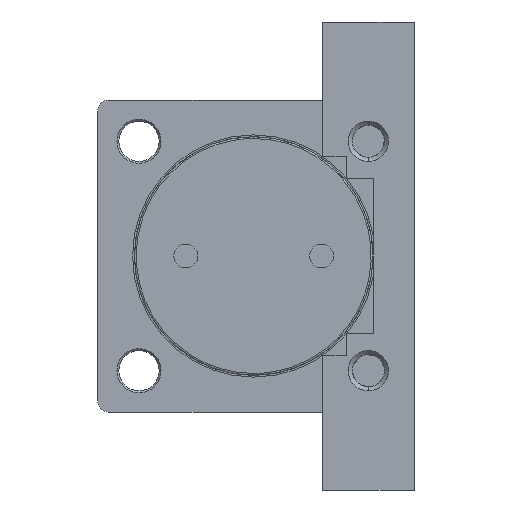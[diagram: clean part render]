
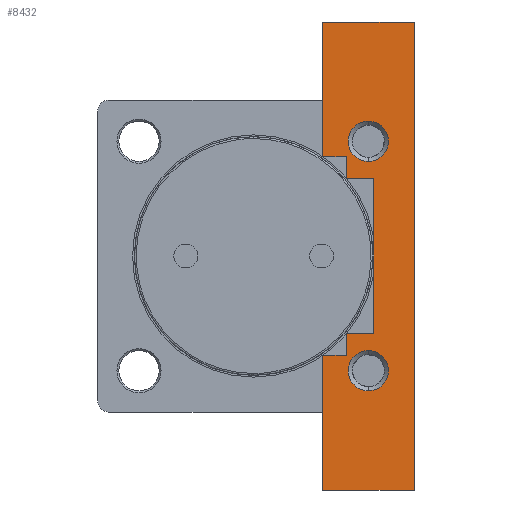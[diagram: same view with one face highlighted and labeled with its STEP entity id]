
A CAD part, left-side view. The second image highlights one B-rep face of the part: STEP entity #8432.
In plain terms, the highlighted planar face has unit normal (1, 0, 0).
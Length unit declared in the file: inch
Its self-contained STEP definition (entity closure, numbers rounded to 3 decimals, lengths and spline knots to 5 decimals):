
#24 = VERTEX_POINT ( 'NONE', #1158 ) ;
#71 = EDGE_CURVE ( 'NONE', #14570, #3117, #13390, .T. ) ;
#828 = CARTESIAN_POINT ( 'NONE',  ( -3.01181, -2.57874, -1.65354 ) ) ;
#886 = EDGE_CURVE ( 'NONE', #13712, #11478, #6671, .T. ) ;
#914 = VERTEX_POINT ( 'NONE', #10642 ) ;
#1158 = CARTESIAN_POINT ( 'NONE',  ( -3.01181, -1.98819, -1.65354 ) ) ;
#1266 = DIRECTION ( 'NONE',  ( 0., -1., 0. ) ) ;
#1292 = CARTESIAN_POINT ( 'NONE',  ( -3.01181, -1.98819, -2.12598 ) ) ;
#1376 = EDGE_CURVE ( 'NONE', #914, #12829, #3142, .T. ) ;
#1428 = VECTOR ( 'NONE', #6717, 39.37008 ) ;
#1675 = CARTESIAN_POINT ( 'NONE',  ( -3.01181, -2.46063, 2.8937 ) ) ;
#1679 = LINE ( 'NONE', #4839, #13860 ) ;
#1893 = LINE ( 'NONE', #10109, #12436 ) ;
#1967 = DIRECTION ( 'NONE',  ( 0., 0., -1. ) ) ;
#1978 = CARTESIAN_POINT ( 'NONE',  ( -3.01181, -3.44488, -5.01969 ) ) ;
#1987 = ORIENTED_EDGE ( 'NONE', *, *, #5232, .T. ) ;
#2015 = CARTESIAN_POINT ( 'NONE',  ( -3.01181, -3.44488, 5.01969 ) ) ;
#2129 = CARTESIAN_POINT ( 'NONE',  ( -3.01181, -1.98819, 1.65354 ) ) ;
#2457 = CIRCLE ( 'NONE', #2969, 0.43307 ) ;
#2485 = EDGE_CURVE ( 'NONE', #12829, #24, #4517, .T. ) ;
#2497 = ORIENTED_EDGE ( 'NONE', *, *, #886, .T. ) ;
#2544 = CARTESIAN_POINT ( 'NONE',  ( -3.01181, -3.44488, 5.01969 ) ) ;
#2597 = DIRECTION ( 'NONE',  ( 0., 0., 1. ) ) ;
#2680 = CARTESIAN_POINT ( 'NONE',  ( -3.01181, -2.57874, 1.65354 ) ) ;
#2706 = DIRECTION ( 'NONE',  ( 0., 0., 1. ) ) ;
#2710 = DIRECTION ( 'NONE',  ( -1., 0., 0. ) ) ;
#2723 = CARTESIAN_POINT ( 'NONE',  ( -3.01181, -2.46063, 2.46063 ) ) ;
#2733 = EDGE_CURVE ( 'NONE', #24, #6218, #6383, .T. ) ;
#2808 = EDGE_CURVE ( 'NONE', #14570, #12274, #6895, .T. ) ;
#2864 = ORIENTED_EDGE ( 'NONE', *, *, #4636, .T. ) ;
#2931 = PLANE ( 'NONE',  #6624 ) ;
#2942 = VECTOR ( 'NONE', #8447, 39.37008 ) ;
#2960 = CARTESIAN_POINT ( 'NONE',  ( -3.01181, -2.57874, 5.01969 ) ) ;
#2969 = AXIS2_PLACEMENT_3D ( 'NONE', #7205, #7200, #7184 ) ;
#2984 = ORIENTED_EDGE ( 'NONE', *, *, #12526, .T. ) ;
#3117 = VERTEX_POINT ( 'NONE', #8357 ) ;
#3142 = LINE ( 'NONE', #8408, #2942 ) ;
#3352 = FACE_BOUND ( 'NONE', #3689, .T. ) ;
#3636 = VERTEX_POINT ( 'NONE', #4573 ) ;
#3678 = DIRECTION ( 'NONE',  ( 1., 0., 0. ) ) ;
#3689 = EDGE_LOOP ( 'NONE', ( #3899, #2984 ) ) ;
#3899 = ORIENTED_EDGE ( 'NONE', *, *, #13916, .T. ) ;
#3900 = AXIS2_PLACEMENT_3D ( 'NONE', #10624, #10588, #10583 ) ;
#4065 = VERTEX_POINT ( 'NONE', #2129 ) ;
#4088 = FACE_OUTER_BOUND ( 'NONE', #4930, .T. ) ;
#4101 = EDGE_CURVE ( 'NONE', #4065, #5197, #7574, .T. ) ;
#4402 = CARTESIAN_POINT ( 'NONE',  ( -3.01181, -1.47638, -5.01969 ) ) ;
#4517 = LINE ( 'NONE', #13687, #4675 ) ;
#4573 = CARTESIAN_POINT ( 'NONE',  ( -3.01181, -1.47638, 5.01969 ) ) ;
#4636 = EDGE_CURVE ( 'NONE', #5279, #3636, #8007, .T. ) ;
#4675 = VECTOR ( 'NONE', #13736, 39.37008 ) ;
#4698 = CARTESIAN_POINT ( 'NONE',  ( -3.01181, -1.98819, 5.01969 ) ) ;
#4713 = ORIENTED_EDGE ( 'NONE', *, *, #4101, .T. ) ;
#4827 = CARTESIAN_POINT ( 'NONE',  ( -3.01181, -1.47638, 2.12598 ) ) ;
#4839 = CARTESIAN_POINT ( 'NONE',  ( -3.01181, -3.44488, 2.12598 ) ) ;
#4871 = VERTEX_POINT ( 'NONE', #11212 ) ;
#4906 = DIRECTION ( 'NONE',  ( 0., 1., 0. ) ) ;
#4930 = EDGE_LOOP ( 'NONE', ( #6115, #2864, #7180, #11384, #13110, #14984, #14634, #13835, #13201, #11789, #4947, #4713 ) ) ;
#4947 = ORIENTED_EDGE ( 'NONE', *, *, #11729, .T. ) ;
#5020 = DIRECTION ( 'NONE',  ( 0., 0., 1. ) ) ;
#5031 = DIRECTION ( 'NONE',  ( -1., 0., 0. ) ) ;
#5033 = CARTESIAN_POINT ( 'NONE',  ( -3.01181, -2.46063, -2.46063 ) ) ;
#5137 = EDGE_LOOP ( 'NONE', ( #2497, #1987 ) ) ;
#5197 = VERTEX_POINT ( 'NONE', #5219 ) ;
#5219 = CARTESIAN_POINT ( 'NONE',  ( -3.01181, -1.98819, 2.12598 ) ) ;
#5232 = EDGE_CURVE ( 'NONE', #11478, #13712, #11704, .T. ) ;
#5279 = VERTEX_POINT ( 'NONE', #4827 ) ;
#5882 = AXIS2_PLACEMENT_3D ( 'NONE', #2723, #2710, #2706 ) ;
#5996 = DIRECTION ( 'NONE',  ( 0., 0., 1. ) ) ;
#6115 = ORIENTED_EDGE ( 'NONE', *, *, #12182, .T. ) ;
#6218 = VERTEX_POINT ( 'NONE', #828 ) ;
#6339 = VECTOR ( 'NONE', #11930, 39.37008 ) ;
#6383 = LINE ( 'NONE', #11959, #6339 ) ;
#6624 = AXIS2_PLACEMENT_3D ( 'NONE', #13000, #3678, #1967 ) ;
#6671 = CIRCLE ( 'NONE', #3900, 0.43307 ) ;
#6717 = DIRECTION ( 'NONE',  ( 0., 0., 1. ) ) ;
#6895 = LINE ( 'NONE', #11336, #6914 ) ;
#6914 = VECTOR ( 'NONE', #11080, 39.37008 ) ;
#7136 = VECTOR ( 'NONE', #1266, 39.37008 ) ;
#7180 = ORIENTED_EDGE ( 'NONE', *, *, #8574, .T. ) ;
#7184 = DIRECTION ( 'NONE',  ( 0., 0., 1. ) ) ;
#7200 = DIRECTION ( 'NONE',  ( -1., 0., 0. ) ) ;
#7205 = CARTESIAN_POINT ( 'NONE',  ( -3.01181, -2.46063, 2.46063 ) ) ;
#7574 = LINE ( 'NONE', #4698, #1428 ) ;
#7959 = FACE_BOUND ( 'NONE', #5137, .T. ) ;
#8007 = LINE ( 'NONE', #12412, #9141 ) ;
#8018 = LINE ( 'NONE', #2015, #7136 ) ;
#8193 = VECTOR ( 'NONE', #11064, 39.37008 ) ;
#8357 = CARTESIAN_POINT ( 'NONE',  ( -3.01181, -3.44488, 5.01969 ) ) ;
#8398 = EDGE_CURVE ( 'NONE', #6218, #14490, #8694, .T. ) ;
#8408 = CARTESIAN_POINT ( 'NONE',  ( -3.01181, -3.44488, -2.12598 ) ) ;
#8432 = ADVANCED_FACE ( 'NONE', ( #3352, #7959, #4088 ), #2931, .T. ) ;
#8447 = DIRECTION ( 'NONE',  ( 0., -1., 0. ) ) ;
#8514 = VERTEX_POINT ( 'NONE', #1675 ) ;
#8574 = EDGE_CURVE ( 'NONE', #3636, #3117, #8018, .T. ) ;
#8599 = VECTOR ( 'NONE', #5996, 39.37008 ) ;
#8694 = LINE ( 'NONE', #2960, #8599 ) ;
#9141 = VECTOR ( 'NONE', #12741, 39.37008 ) ;
#9164 = CARTESIAN_POINT ( 'NONE',  ( -3.01181, -2.46063, -2.02756 ) ) ;
#9177 = CIRCLE ( 'NONE', #5882, 0.43307 ) ;
#9190 = LINE ( 'NONE', #11251, #8193 ) ;
#10092 = EDGE_CURVE ( 'NONE', #12274, #914, #9190, .T. ) ;
#10109 = CARTESIAN_POINT ( 'NONE',  ( -3.01181, -3.44488, 1.65354 ) ) ;
#10276 = DIRECTION ( 'NONE',  ( 0., 1., 0. ) ) ;
#10583 = DIRECTION ( 'NONE',  ( 0., 0., 1. ) ) ;
#10588 = DIRECTION ( 'NONE',  ( -1., 0., 0. ) ) ;
#10624 = CARTESIAN_POINT ( 'NONE',  ( -3.01181, -2.46063, -2.46063 ) ) ;
#10642 = CARTESIAN_POINT ( 'NONE',  ( -3.01181, -1.47638, -2.12598 ) ) ;
#11064 = DIRECTION ( 'NONE',  ( 0., 0., 1. ) ) ;
#11080 = DIRECTION ( 'NONE',  ( 0., 1., 0. ) ) ;
#11212 = CARTESIAN_POINT ( 'NONE',  ( -3.01181, -2.46063, 2.02756 ) ) ;
#11251 = CARTESIAN_POINT ( 'NONE',  ( -3.01181, -1.47638, 5.01969 ) ) ;
#11336 = CARTESIAN_POINT ( 'NONE',  ( -3.01181, -3.44488, -5.01969 ) ) ;
#11384 = ORIENTED_EDGE ( 'NONE', *, *, #71, .F. ) ;
#11478 = VERTEX_POINT ( 'NONE', #11762 ) ;
#11704 = CIRCLE ( 'NONE', #13358, 0.43307 ) ;
#11729 = EDGE_CURVE ( 'NONE', #14490, #4065, #1893, .T. ) ;
#11762 = CARTESIAN_POINT ( 'NONE',  ( -3.01181, -2.46063, -2.8937 ) ) ;
#11789 = ORIENTED_EDGE ( 'NONE', *, *, #8398, .T. ) ;
#11930 = DIRECTION ( 'NONE',  ( 0., -1., 0. ) ) ;
#11959 = CARTESIAN_POINT ( 'NONE',  ( -3.01181, -3.44488, -1.65354 ) ) ;
#12182 = EDGE_CURVE ( 'NONE', #5197, #5279, #1679, .T. ) ;
#12274 = VERTEX_POINT ( 'NONE', #4402 ) ;
#12412 = CARTESIAN_POINT ( 'NONE',  ( -3.01181, -1.47638, 5.01969 ) ) ;
#12436 = VECTOR ( 'NONE', #10276, 39.37008 ) ;
#12526 = EDGE_CURVE ( 'NONE', #4871, #8514, #9177, .T. ) ;
#12741 = DIRECTION ( 'NONE',  ( 0., 0., 1. ) ) ;
#12829 = VERTEX_POINT ( 'NONE', #1292 ) ;
#13000 = CARTESIAN_POINT ( 'NONE',  ( -3.01181, -3.44488, 5.01969 ) ) ;
#13110 = ORIENTED_EDGE ( 'NONE', *, *, #2808, .T. ) ;
#13201 = ORIENTED_EDGE ( 'NONE', *, *, #2733, .T. ) ;
#13358 = AXIS2_PLACEMENT_3D ( 'NONE', #5033, #5031, #5020 ) ;
#13390 = LINE ( 'NONE', #2544, #13551 ) ;
#13551 = VECTOR ( 'NONE', #2597, 39.37008 ) ;
#13687 = CARTESIAN_POINT ( 'NONE',  ( -3.01181, -1.98819, 5.01969 ) ) ;
#13712 = VERTEX_POINT ( 'NONE', #9164 ) ;
#13736 = DIRECTION ( 'NONE',  ( 0., 0., 1. ) ) ;
#13835 = ORIENTED_EDGE ( 'NONE', *, *, #2485, .T. ) ;
#13860 = VECTOR ( 'NONE', #4906, 39.37008 ) ;
#13916 = EDGE_CURVE ( 'NONE', #8514, #4871, #2457, .T. ) ;
#14490 = VERTEX_POINT ( 'NONE', #2680 ) ;
#14570 = VERTEX_POINT ( 'NONE', #1978 ) ;
#14634 = ORIENTED_EDGE ( 'NONE', *, *, #1376, .T. ) ;
#14984 = ORIENTED_EDGE ( 'NONE', *, *, #10092, .T. ) ;
